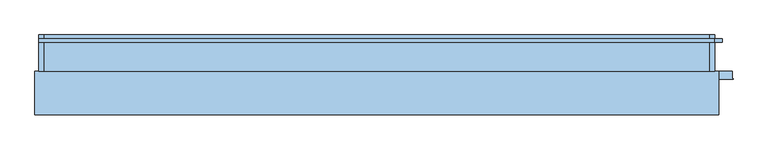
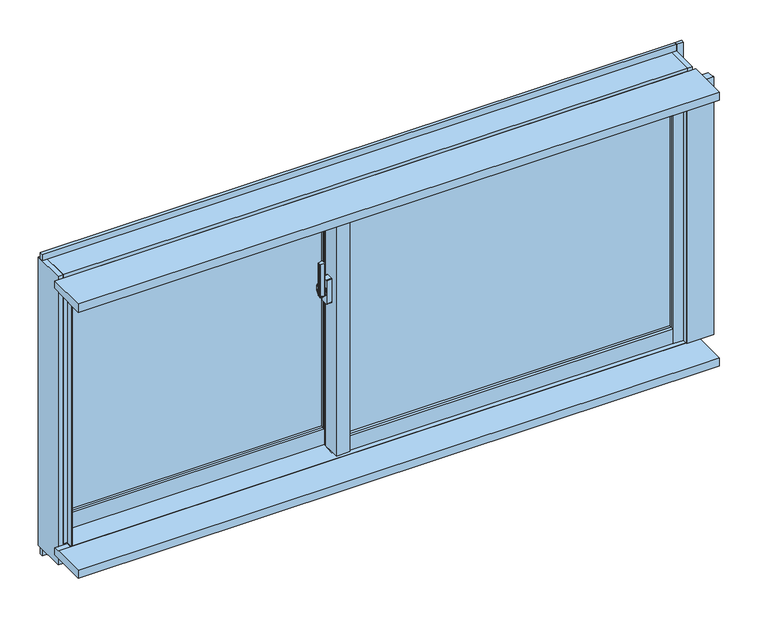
"""IFC4 building model written with IfcOpenShell, lengths in millimetres: window geometry, FNSⅡ100R_非防火_面付枠_単窓 : 外動片引."""

from ifc_helpers import new_model, si_unit, point, frame, frame_2d, origin, place, context, project, spatial, polyline, circle_curve, trimmed, segment, composite_curve, outline, extrude, faceted_brep, source, transform, mapped, element, save
from ifc_brep_helpers import plane_surface, cylinder_surface, revolved_surface, advanced_brep


def window_6e653af7(model_context):
    return source(origin(), model_context, "Body", "SolidModel", [
        extrude(outline(composite_curve([segment(polyline([(-139.0, 34.6), (-139.0, 26.4)]), True, "CONTINUOUS"), segment(trimmed(circle_curve(frame_2d((-141.0, 26.4)), 2.0), [point((-139.0, 26.4))], [point((-141.3606557, 24.4327869))], False, "CARTESIAN"), True, "CONTINUOUS"), segment(polyline([(-141.3606557, 24.4327869), (-152.3606557, 26.4494536)]), True, "CONTINUOUS"), segment(trimmed(circle_curve(frame_2d((-152.0, 28.4166667)), 2.0), [point((-152.3606557, 26.4494536))], [point((-154.0, 28.4166667))], False, "CARTESIAN"), True, "CONTINUOUS"), segment(polyline([(-154.0, 28.4166667), (-154.0, 32.5833333)]), True, "CONTINUOUS"), segment(trimmed(circle_curve(frame_2d((-152.0, 32.5833333)), 2.0), [point((-154.0, 32.5833333))], [point((-152.3606557, 34.5505464))], False, "CARTESIAN"), True, "CONTINUOUS"), segment(polyline([(-152.3606557, 34.5505464), (-141.3606557, 36.5672131)]), True, "CONTINUOUS"), segment(trimmed(circle_curve(frame_2d((-141.0, 34.6)), 2.0), [point((-141.3606557, 36.5672131))], [point((-139.0, 34.6))], False, "CARTESIAN"), True, "CONTINUOUS")], self_intersect=False)), frame((0.0, 0.0, 1390.0), z_axis=(0.0, 0.0, 1.0), x_axis=(1.0, 0.0, 0.0)), (0.0, 0.0, 1.0), 100.0),
        advanced_brep(
        [(-137.5, 38.8234285, 1421.7333311), (-145.5, 38.8234285, 1421.7333311), (-145.5, 38.4351999, 1420.2844424), (-139.0, 38.4351999, 1420.2844424), (-139.0, 36.6234666, 1413.5229616), (-137.5, 36.6234666, 1413.5229616), (-139.0, 36.6466117, 1379.3190372), (-145.5, 36.6466117, 1379.3190372), (-145.5, 36.907084, 1377.8418256), (-137.5, 36.907084, 1377.8418256), (-137.5, 35.4310745, 1386.2126915), (-139.0, 35.4310745, 1386.2126915)],
        [
            (0, 1),
            (1, 2),
            (2, 3),
            (3, 4),
            (4, 5),
            (5, 0),
            (6, 7),
            (7, 8),
            (8, 9),
            (9, 10),
            (10, 11),
            (11, 6),
            (0, 9, circle_curve(frame((-137.5, 33.0, 1400.0), z_axis=(-1.0, 0.0, 0.0), x_axis=(0.0, 0.25881904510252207, 0.965925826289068)), 22.5)),
            (8, 1, circle_curve(frame((-145.5, 33.0, 1400.0), z_axis=(1.0, 0.0, 0.0), x_axis=(0.0, 0.25881904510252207, 0.965925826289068)), 22.5)),
            (7, 2, circle_curve(frame((-145.5, 33.0, 1400.0), z_axis=(1.0, 0.0, 0.0), x_axis=(0.0, 0.25881904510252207, 0.965925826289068)), 21.0)),
            (6, 3, circle_curve(frame((-139.0, 33.0, 1400.0), z_axis=(1.0, 0.0, 0.0), x_axis=(0.0, 0.25881904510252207, 0.965925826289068)), 21.0)),
            (11, 4, circle_curve(frame((-139.0, 33.0, 1400.0), z_axis=(-1.0, 0.0, 0.0), x_axis=(0.0, -1.0, 0.0)), 14.0)),
            (5, 10, circle_curve(frame((-137.5, 33.0, 1400.0), z_axis=(1.0, 0.0, 0.0), x_axis=(0.0, -1.0, 0.0)), 14.0)),
        ],
        [
            plane_surface(frame((-143.5470497, 33.0, 1400.0), z_axis=(0.0, -0.965925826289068, 0.25881904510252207), x_axis=(0.0, 0.25881904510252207, 0.965925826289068))),
            plane_surface(frame((-143.5470497, 33.0, 1400.0), z_axis=(0.0, -0.9848077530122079, -0.17364817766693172), x_axis=(0.0, 0.17364817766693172, -0.9848077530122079))),
            cylinder_surface(frame((-143.5470497, 33.0, 1400.0), z_axis=(-1.0, 0.0, 0.0), x_axis=(0.0, 0.25881904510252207, 0.965925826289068)), 22.5),
            plane_surface(frame((-145.5, 33.0, 1400.0), z_axis=(-1.0, 0.0, 0.0), x_axis=(0.0, 0.25881904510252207, 0.965925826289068))),
            revolved_surface(polyline([(-145.5, 38.43519994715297, 1420.2844423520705), (-139.0, 38.43519994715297, 1420.2844423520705)]), (-143.5470497, 33.0, 1400.0), (-1.0, 0.0, 0.0)),
            plane_surface(frame((-139.0, 33.0, 1400.0), z_axis=(-1.0, 0.0, 0.0), x_axis=(0.0, 0.25881904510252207, 0.965925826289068))),
            plane_surface(frame((-137.5, 33.0, 1400.0), z_axis=(1.0, 0.0, 0.0), x_axis=(0.0, 0.25881904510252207, 0.965925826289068))),
            cylinder_surface(frame((-137.5, 33.0, 1400.0), z_axis=(-1.0, 0.0, 0.0), x_axis=(0.0, -1.0, 0.0)), 14.0),
        ],
        [
            (0, [[1, 2, 3, 4, 5, 6]]),
            (1, [[7, 8, 9, 10, 11, 12]]),
            (2, [[-1, 13, -9, 14]]),
            (3, [[-2, -14, -8, 15]]),
            (4, [[-3, -15, -7, 16]]),
            (5, [[-16, -12, 17, -4]]),
            (6, [[-13, -6, 18, -10]]),
            (7, [[-17, -11, -18, -5]]),
        ],
    ),
        extrude(outline(composite_curve([segment(trimmed(circle_curve(frame_2d((33.0, 1400.0)), 11.5), [point((44.5, 1400.0))], [point((21.5, 1400.0))], False, "CARTESIAN"), True, "CONTINUOUS"), segment(trimmed(circle_curve(frame_2d((33.0, 1400.0)), 11.5), [point((21.5, 1400.0))], [point((44.5, 1400.0))], False, "CARTESIAN"), True, "CONTINUOUS")], self_intersect=False)), frame((-137.5, 0.0, 0.0), z_axis=(1.0, 0.0, 0.0), x_axis=(0.0, 1.0, 0.0)), (0.0, 0.0, 1.0), 2.5),
        extrude(outline(composite_curve([segment(polyline([(24.0, 1437.5), (42.0, 1437.5)]), True, "CONTINUOUS"), segment(trimmed(circle_curve(frame_2d((42.0, 1435.5)), 2.0), [point((42.0, 1437.5))], [point((44.0, 1435.5))], False, "CARTESIAN"), True, "CONTINUOUS"), segment(polyline([(44.0, 1435.5), (44.0, 1364.5)]), True, "CONTINUOUS"), segment(trimmed(circle_curve(frame_2d((42.0, 1364.5)), 2.0), [point((44.0, 1364.5))], [point((42.0, 1362.5))], False, "CARTESIAN"), True, "CONTINUOUS"), segment(polyline([(42.0, 1362.5), (24.0, 1362.5)]), True, "CONTINUOUS"), segment(trimmed(circle_curve(frame_2d((24.0, 1364.5)), 2.0), [point((24.0, 1362.5))], [point((22.0, 1364.5))], False, "CARTESIAN"), True, "CONTINUOUS"), segment(polyline([(22.0, 1364.5), (22.0, 1435.5)]), True, "CONTINUOUS"), segment(trimmed(circle_curve(frame_2d((24.0, 1435.5)), 2.0), [point((22.0, 1435.5))], [point((24.0, 1437.5))], False, "CARTESIAN"), True, "CONTINUOUS")], self_intersect=False)), frame((-135.0, 0.0, 0.0), z_axis=(1.0, 0.0, 0.0), x_axis=(0.0, 1.0, 0.0)), (0.0, 0.0, 1.0), 15.0),
        extrude(outline(polyline([(-80.0, 24.0), (868.0, 24.0), (868.0, 18.0), (-80.0, 18.0), (-80.0, 24.0)])), frame((0.0, 0.0, 948.0), z_axis=(0.0, 0.0, 1.0), x_axis=(1.0, 0.0, 0.0)), (0.0, 0.0, 1.0), 712.0),
        extrude(outline(polyline([(-80.0, 42.0), (868.0, 42.0), (868.0, 36.0), (-80.0, 36.0), (-80.0, 42.0)])), frame((0.0, 0.0, 948.0), z_axis=(0.0, 0.0, 1.0), x_axis=(1.0, 0.0, 0.0)), (0.0, 0.0, 1.0), 712.0),
        extrude(outline(polyline([(-868.0, 82.0), (-120.0, 82.0), (-120.0, 76.0), (-868.0, 76.0), (-868.0, 82.0)])), frame((0.0, 0.0, 948.0), z_axis=(0.0, 0.0, 1.0), x_axis=(1.0, 0.0, 0.0)), (0.0, 0.0, 1.0), 712.0),
        extrude(outline(polyline([(-868.0, 100.0), (-120.0, 100.0), (-120.0, 94.0), (-868.0, 94.0), (-868.0, 100.0)])), frame((0.0, 0.0, 948.0), z_axis=(0.0, 0.0, 1.0), x_axis=(1.0, 0.0, 0.0)), (0.0, 0.0, 1.0), 712.0),
        faceted_brep([(-900.0, 79.0, 1700.0), (-889.5, 79.0, 1700.0), (-889.5, 66.0, 1700.0), (-868.0, 66.0, 1700.0), (-868.0, 108.0, 1700.0), (-900.0, 108.0, 1700.0), (-868.0, 79.0, 860.0), (-900.0, 79.0, 860.0), (-900.0, 108.0, 860.0), (-868.0, 108.0, 860.0), (-868.0, 79.0, 900.0), (-889.5, 79.0, 900.0), (-889.5, 66.0, 900.0), (-868.0, 66.0, 900.0)], [[[0, 1, 2, 3, 4, 5]], [[6, 7, 8, 9]], [[1, 0, 7, 6, 10, 11]], [[2, 1, 11, 12]], [[3, 2, 12, 13]], [[4, 3, 13, 10, 6, 9]], [[5, 4, 9, 8]], [[7, 0, 5, 8]], [[11, 10, 13, 12]]]),
        faceted_brep([(-80.0, 79.0, 900.0), (-120.0, 79.0, 900.0), (-120.0, 79.0, 860.0), (-80.0, 79.0, 860.0), (-120.0, 65.5, 1700.0), (-101.8, 65.5, 1700.0), (-101.8, 53.1, 1700.0), (-80.0, 53.1, 1700.0), (-80.0, 108.0, 1700.0), (-120.0, 108.0, 1700.0), (-120.0, 108.0, 860.0), (-80.0, 108.0, 860.0), (-120.0, 65.5, 900.0), (-101.8, 65.5, 900.0), (-101.8, 53.1, 900.0), (-80.0, 53.1, 900.0)], [[[0, 1, 2, 3]], [[4, 5, 6, 7, 8, 9]], [[10, 11, 3, 2]], [[5, 4, 12, 13]], [[6, 5, 13, 14]], [[7, 6, 14, 15]], [[8, 7, 15, 0, 3, 11]], [[9, 8, 11, 10]], [[4, 9, 10, 2, 1, 12]], [[1, 0, 15, 14, 13, 12]]]),
        extrude(outline(polyline([(-120.0, 53.1), (-115.0, 53.1), (-115.0, 8.0), (-82.6, 8.0), (-82.6, 12.0), (-80.0, 12.0), (-80.0, 0.0), (-120.0, 0.0), (-120.0, 53.1)])), frame((0.0, 0.0, 900.0), z_axis=(0.0, 0.0, 1.0), x_axis=(1.0, 0.0, 0.0)), (0.0, 0.0, 1.0), 800.0),
        extrude(outline(polyline([(-115.0, 53.1), (-80.0, 53.1), (-80.0, 12.0), (-82.6, 12.0), (-82.6, 8.0), (-115.0, 8.0), (-115.0, 53.1)])), frame((0.0, 0.0, 900.0), z_axis=(0.0, 0.0, 1.0), x_axis=(1.0, 0.0, 0.0)), (0.0, 0.0, 1.0), 800.0),
        extrude(outline(polyline([(868.0, 0.0), (868.0, 8.0), (889.5, 8.0), (889.5, 21.0), (897.0, 21.0), (897.0, 0.0), (868.0, 0.0)])), frame((0.0, 0.0, 903.0), z_axis=(0.0, 0.0, 1.0), x_axis=(1.0, 0.0, 0.0)), (0.0, 0.0, 1.0), 797.0),
        extrude(outline(polyline([(868.0, 50.0), (900.0, 50.0), (900.0, 21.0), (889.5, 21.0), (889.5, 8.0), (868.0, 8.0), (868.0, 50.0)])), frame((0.0, 0.0, 900.0), z_axis=(0.0, 0.0, 1.0), x_axis=(1.0, 0.0, 0.0)), (0.0, 0.0, 1.0), 800.0),
        extrude(outline(polyline([(-101.8, 65.5), (-101.8, 58.0), (-120.0, 58.0), (-120.0, 65.5), (-101.8, 65.5)])), frame((0.0, 0.0, 900.0), z_axis=(0.0, 0.0, 1.0), x_axis=(1.0, 0.0, 0.0)), (0.0, 0.0, 1.0), 800.0),
        extrude(outline(polyline([(-897.0, 79.0), (-889.5, 79.0), (-889.5, 66.0), (-868.0, 66.0), (-868.0, 58.0), (-897.0, 58.0), (-897.0, 79.0)])), frame((0.0, 0.0, 900.0), z_axis=(0.0, 0.0, 1.0), x_axis=(1.0, 0.0, 0.0)), (0.0, 0.0, 1.0), 800.0),
        extrude(outline(polyline([(2.0, 903.0), (2.0, 948.0), (10.0, 948.0), (10.0, 925.5), (21.0, 925.5), (21.0, 903.0), (2.0, 903.0)])), frame((-80.0, 0.0, 0.0), z_axis=(1.0, 0.0, 0.0), x_axis=(0.0, 1.0, 0.0)), (0.0, 0.0, 1.0), 948.0),
        extrude(outline(polyline([(50.0, 900.0), (21.0, 900.0), (21.0, 925.5), (10.0, 925.5), (10.0, 948.0), (50.0, 948.0), (50.0, 900.0)])), frame((-80.0, 0.0, 0.0), z_axis=(1.0, 0.0, 0.0), x_axis=(0.0, 1.0, 0.0)), (0.0, 0.0, 1.0), 948.0),
        extrude(outline(polyline([(60.0, 948.0), (68.0, 948.0), (68.0, 925.5), (79.0, 925.5), (79.0, 900.0), (60.0, 900.0), (60.0, 948.0)])), frame((-868.0, 0.0, 0.0), z_axis=(1.0, 0.0, 0.0), x_axis=(0.0, 1.0, 0.0)), (0.0, 0.0, 1.0), 748.0),
        extrude(outline(polyline([(108.0, 860.0), (79.0, 860.0), (79.0, 925.5), (68.0, 925.5), (68.0, 948.0), (108.0, 948.0), (108.0, 860.0)])), frame((-868.0, 0.0, 0.0), z_axis=(1.0, 0.0, 0.0), x_axis=(0.0, 1.0, 0.0)), (0.0, 0.0, 1.0), 748.0),
        extrude(outline(polyline([(23.0, 1680.5), (10.0, 1680.5), (10.0, 1660.0), (2.0, 1660.0), (2.0, 1700.0), (23.0, 1700.0), (23.0, 1680.5)])), frame((-80.0, 0.0, 0.0), z_axis=(1.0, 0.0, 0.0), x_axis=(0.0, 1.0, 0.0)), (0.0, 0.0, 1.0), 948.0),
        extrude(outline(polyline([(50.0, 1700.0), (50.0, 1660.0), (10.0, 1660.0), (10.0, 1680.5), (23.0, 1680.5), (23.0, 1700.0), (50.0, 1700.0)])), frame((-80.0, 0.0, 0.0), z_axis=(1.0, 0.0, 0.0), x_axis=(0.0, 1.0, 0.0)), (0.0, 0.0, 1.0), 948.0),
        extrude(outline(polyline([(81.0, 1680.5), (68.0, 1680.5), (68.0, 1660.0), (60.0, 1660.0), (60.0, 1700.0), (81.0, 1700.0), (81.0, 1680.5)])), frame((-868.0, 0.0, 0.0), z_axis=(1.0, 0.0, 0.0), x_axis=(0.0, 1.0, 0.0)), (0.0, 0.0, 1.0), 748.0),
        extrude(outline(polyline([(108.0, 1700.0), (108.0, 1660.0), (68.0, 1660.0), (68.0, 1680.5), (81.0, 1680.5), (81.0, 1700.0), (108.0, 1700.0)])), frame((-868.0, 0.0, 0.0), z_axis=(1.0, 0.0, 0.0), x_axis=(0.0, 1.0, 0.0)), (0.0, 0.0, 1.0), 748.0),
        extrude(outline(polyline([(-122.0, 80.3), (-122.0, 31.9), (-900.0, 31.9), (-900.0, 80.3), (-122.0, 80.3)])), frame((0.0, 0.0, 1700.0), z_axis=(0.0, 0.0, 1.0), x_axis=(1.0, 0.0, 0.0)), (0.0, 0.0, 1.0), 25.0),
        faceted_brep([(915.0, 80.3, 1725.0), (915.0, 10.0, 1725.0), (-915.0, 10.0, 1725.0), (-915.0, 80.3, 1725.0), (-122.0, 80.3, 1725.0), (-122.0, 31.9, 1725.0), (900.0, 31.9, 1725.0), (900.0, 80.3, 1725.0), (915.0, 80.3, 1700.0), (900.0, 80.3, 1700.0), (-915.0, 80.3, 1700.0), (-122.0, 80.3, 1700.0), (915.0, 110.0, 1700.0), (900.0, 31.9, 1700.0), (-122.0, 31.9, 1700.0), (-915.0, 110.0, 1700.0), (915.0, 110.0, 1735.0), (-915.0, 110.0, 1735.0), (915.0, 10.0, 1735.0), (-915.0, 10.0, 1735.0)], [[[0, 1, 2, 3, 4, 5, 6, 7]], [[8, 0, 7, 9]], [[3, 10, 11, 4]], [[12, 8, 9, 13, 14, 11, 10, 15]], [[16, 12, 15, 17]], [[18, 16, 17, 19]], [[1, 18, 19, 2]], [[12, 16, 18, 1, 0, 8]], [[15, 10, 3, 2, 19, 17]], [[6, 13, 9, 7]], [[11, 14, 5, 4]], [[13, 6, 5, 14]]]),
        extrude(outline(polyline([(31.9, 1700.0), (-10.0, 1700.0), (-10.0, 1703.0), (10.0, 1703.0), (10.0, 1725.0), (31.9, 1725.0), (31.9, 1700.0)])), frame((-900.0, 0.0, 0.0), z_axis=(1.0, 0.0, 0.0), x_axis=(0.0, 1.0, 0.0)), (0.0, 0.0, 1.0), 1800.0),
        faceted_brep([(900.0, 10.0, 1720.0), (915.0, 10.0, 1720.0), (915.0, 14.5, 1720.0), (900.0, 14.5, 1720.0), (900.0, -10.0, 900.0), (900.0, 14.5, 900.0), (915.0, 14.5, 900.0), (915.0, 10.0, 900.0), (903.0, 10.0, 900.0), (903.0, -10.0, 900.0), (903.0, -10.0, 1703.0), (900.0, -10.0, 1703.0), (903.0, 10.0, 1703.0), (900.0, 10.0, 1703.0)], [[[0, 1, 2, 3]], [[4, 5, 6, 7, 8, 9]], [[4, 9, 10, 11]], [[9, 8, 12, 10]], [[0, 13, 12, 8, 7, 1]], [[2, 1, 7, 6]], [[3, 2, 6, 5]], [[5, 4, 11, 13, 0, 3]], [[12, 13, 11, 10]]]),
        faceted_brep([(-915.0, 10.0, 1720.0), (-900.0, 10.0, 1720.0), (-900.0, 76.0, 1720.0), (-915.0, 76.0, 1720.0), (-915.0, 10.0, 900.0), (-915.0, 76.0, 900.0), (-900.0, 76.0, 900.0), (-900.0, -10.0, 900.0), (-903.0, -10.0, 900.0), (-903.0, 10.0, 900.0), (-903.0, 10.0, 1703.0), (-900.0, 10.0, 1703.0), (-903.0, -10.0, 1703.0), (-900.0, -10.0, 1703.0)], [[[0, 1, 2, 3]], [[4, 5, 6, 7, 8, 9]], [[4, 9, 10, 11, 1, 0]], [[9, 8, 12, 10]], [[8, 7, 13, 12]], [[7, 6, 2, 1, 11, 13]], [[3, 2, 6, 5]], [[4, 0, 3, 5]], [[11, 10, 12, 13]]]),
        faceted_brep([(-930.0, 110.0, 1735.0), (-930.0, 10.0, 1735.0), (-915.0, 10.0, 1735.0), (-915.0, 110.0, 1735.0), (-930.0, 110.0, 840.0), (-915.0, 110.0, 840.0), (-915.0, 10.0, 840.0), (-930.0, 10.0, 840.0), (-915.0, 110.0, 849.0), (-915.0, 76.0, 849.0), (-915.0, 76.0, 1700.0), (-915.0, 110.0, 1700.0), (-900.0, 110.0, 1700.0), (-900.0, 110.0, 849.0), (-900.0, 76.0, 1700.0), (-900.0, 76.0, 849.0)], [[[0, 1, 2, 3]], [[4, 5, 6, 7]], [[1, 0, 4, 7]], [[2, 1, 7, 6]], [[3, 2, 6, 5, 8, 9, 10, 11]], [[0, 3, 11, 12, 13, 8, 5, 4]], [[12, 11, 10, 14]], [[13, 15, 9, 8]], [[14, 10, 9, 15]], [[12, 14, 15, 13]]]),
        faceted_brep([(915.0, 10.0, 1735.0), (930.0, 10.0, 1735.0), (930.0, 110.0, 1735.0), (915.0, 110.0, 1735.0), (915.0, 10.0, 840.0), (915.0, 110.0, 840.0), (930.0, 110.0, 840.0), (930.0, 10.0, 840.0), (915.0, 14.5, 1700.0), (900.0, 14.5, 1700.0), (900.0, 14.5, 849.0), (915.0, 14.5, 849.0), (900.0, 110.0, 1700.0), (900.0, 110.0, 849.0), (915.0, 110.0, 1700.0), (915.0, 110.0, 849.0)], [[[0, 1, 2, 3]], [[4, 5, 6, 7]], [[8, 9, 10, 11]], [[9, 12, 13, 10]], [[9, 8, 14, 12]], [[10, 13, 15, 11]], [[1, 0, 4, 7]], [[2, 1, 7, 6]], [[3, 2, 6, 5, 15, 13, 12, 14]], [[0, 3, 14, 8, 11, 15, 5, 4]]]),
        faceted_brep([(900.0, 37.25, 900.0), (900.0, 37.25, 884.0), (-122.0, 37.25, 884.0), (-122.0, 37.25, 900.0), (915.0, 10.0, 884.0), (915.0, 76.0, 884.0), (-915.0, 76.0, 884.0), (-915.0, 10.0, 884.0), (900.0, 18.8, 884.0), (-122.0, 18.8, 884.0), (915.0, 76.0, 849.0), (-915.0, 76.0, 849.0), (915.0, 110.0, 849.0), (-915.0, 110.0, 849.0), (915.0, 110.0, 840.0), (915.0, 10.0, 840.0), (-915.0, 10.0, 840.0), (-915.0, 110.0, 840.0), (900.0, 18.8, 900.0), (-122.0, 18.8, 900.0)], [[[0, 1, 2, 3]], [[4, 5, 6, 7], [1, 8, 9, 2]], [[5, 10, 11, 6]], [[10, 12, 13, 11]], [[14, 15, 16, 17]], [[14, 12, 10, 5, 4, 15]], [[17, 16, 7, 6, 11, 13]], [[15, 4, 7, 16]], [[12, 14, 17, 13]], [[18, 8, 1, 0]], [[19, 3, 2, 9]], [[8, 18, 19, 9]], [[18, 0, 3, 19]]]),
        faceted_brep([(-900.0, 76.0, 900.0), (-900.0, 76.0, 884.0), (-900.0, 18.8, 884.0), (-900.0, 18.8, 900.0), (903.0, -10.0, 900.0), (903.0, -10.0, 897.0), (903.0, 10.0, 897.0), (903.0, 10.0, 884.0), (903.0, 14.5, 884.0), (903.0, 14.5, 900.0), (-903.0, 10.0, 884.0), (-903.0, 10.0, 897.0), (-903.0, -10.0, 897.0), (-903.0, -10.0, 900.0), (-903.0, 18.8, 900.0), (-903.0, 18.8, 884.0), (900.0, 14.5, 900.0), (900.0, 18.8, 900.0), (-122.0, 18.8, 900.0), (-122.0, 76.0, 900.0), (900.0, 18.8, 884.0), (-122.0, 18.8, 884.0), (-122.0, 76.0, 884.0), (900.0, 14.5, 884.0)], [[[0, 1, 2, 3]], [[4, 5, 6, 7, 8, 9]], [[10, 11, 12, 13, 14, 15]], [[7, 6, 11, 10]], [[6, 5, 12, 11]], [[5, 4, 13, 12]], [[14, 13, 4, 9, 16, 17, 18, 19, 0, 3]], [[15, 14, 3, 2]], [[17, 20, 21, 18]], [[10, 15, 2, 1, 22, 21, 20, 23, 8, 7]], [[16, 23, 20, 17]], [[23, 16, 9, 8]], [[19, 18, 21, 22]], [[19, 22, 1, 0]]]),
        extrude(outline(polyline([(950.0, 90.0), (930.0, 90.0), (930.0, 100.0), (950.0, 100.0), (950.0, 90.0)])), frame((0.0, 0.0, 820.0), z_axis=(0.0, 0.0, 1.0), x_axis=(1.0, 0.0, 0.0)), (0.0, 0.0, 1.0), 935.0),
        extrude(outline(polyline([(903.0, -10.0), (903.0, 10.0), (977.0, 10.0), (977.0, -10.0), (980.0, -10.0), (980.0, -12.5), (900.0, -12.5), (900.0, -10.0), (903.0, -10.0)])), frame((0.0, 0.0, 900.0), z_axis=(0.0, 0.0, 1.0), x_axis=(1.0, 0.0, 0.0)), (0.0, 0.0, 1.0), 800.0),
        extrude(outline(polyline([(-110.0, 900.0), (-10.0, 900.0), (-10.0, 897.0), (10.0, 897.0), (10.0, 875.0), (-110.0, 875.0), (-110.0, 900.0)])), frame((-940.0, 0.0, 0.0), z_axis=(1.0, 0.0, 0.0), x_axis=(0.0, 1.0, 0.0)), (0.0, 0.0, 1.0), 1880.0),
        extrude(outline(polyline([(-930.0, 90.0), (-930.0, 100.0), (930.0, 100.0), (930.0, 90.0), (-930.0, 90.0)])), frame((0.0, 0.0, 820.0), z_axis=(0.0, 0.0, 1.0), x_axis=(1.0, 0.0, 0.0)), (0.0, 0.0, 1.0), 20.0),
        extrude(outline(polyline([(-110.0, 1725.0), (10.0, 1725.0), (10.0, 1703.0), (-10.0, 1703.0), (-10.0, 1700.0), (-110.0, 1700.0), (-110.0, 1725.0)])), frame((-940.0, 0.0, 0.0), z_axis=(1.0, 0.0, 0.0), x_axis=(0.0, 1.0, 0.0)), (0.0, 0.0, 1.0), 1880.0),
        extrude(outline(polyline([(-930.0, 90.0), (-930.0, 100.0), (930.0, 100.0), (930.0, 90.0), (-930.0, 90.0)])), frame((0.0, 0.0, 1735.0), z_axis=(0.0, 0.0, 1.0), x_axis=(1.0, 0.0, 0.0)), (0.0, 0.0, 1.0), 20.0),
    ])


if __name__ == "__main__":
    model = new_model("IFC4")
    model_context = context("Model", 3, world=origin())
    ifc_project = project(units=[si_unit("LENGTHUNIT", "METRE", prefix="MILLI")], contexts=[model_context])
    site = spatial("IfcSite", under=ifc_project)
    building = spatial("IfcBuilding", under=site)
    placement = place(None, origin())
    window_shape = window_6e653af7(model_context)
    element("IfcWindow", 1, ObjectType="FNSⅡ100R_非防火_面付枠_単窓 : 外動片引", at=placement, inside=building, context=model_context, shape_type="MappedRepresentation", body=[
        mapped(window_shape, transform((0.0, 0.0, 0.0), x_axis=(1.0, 0.0, 0.0), y_axis=(0.0, 1.0, 0.0), z_axis=(0.0, 0.0, 1.0))),
    ])
    save(model, "model.ifc")
